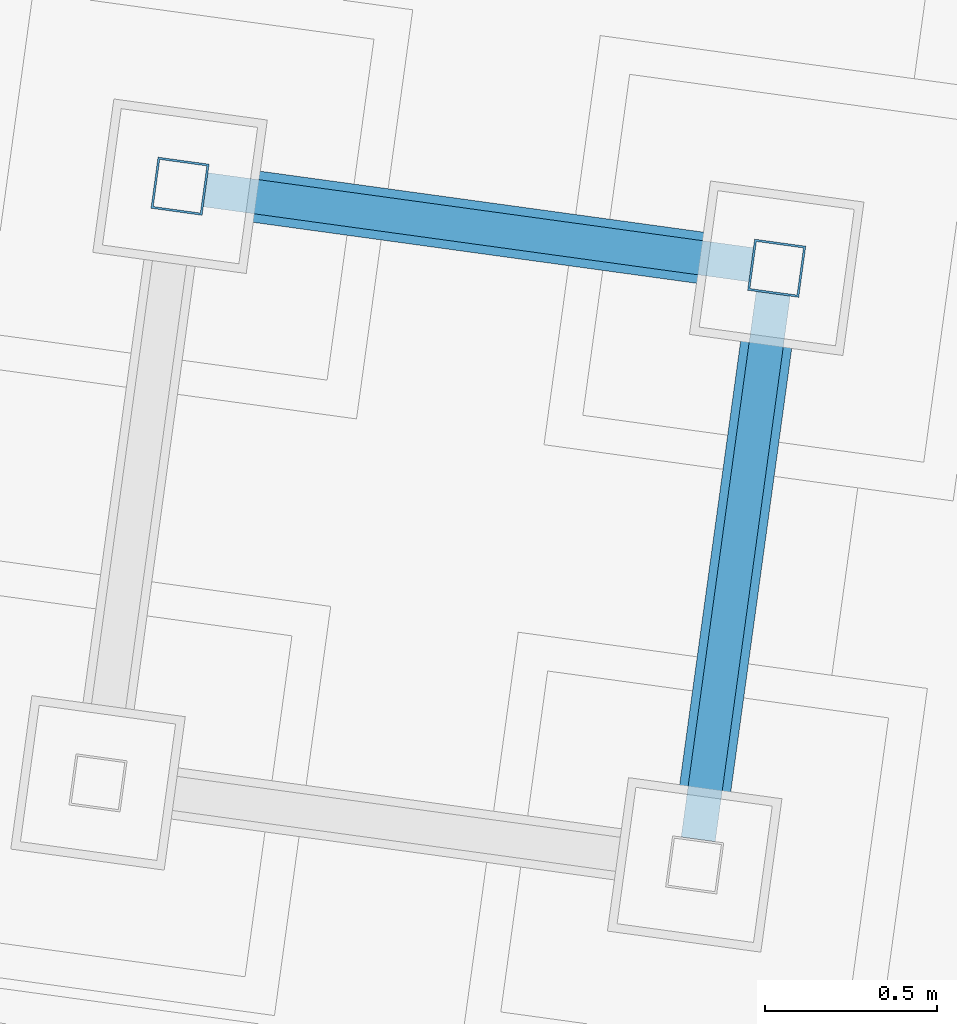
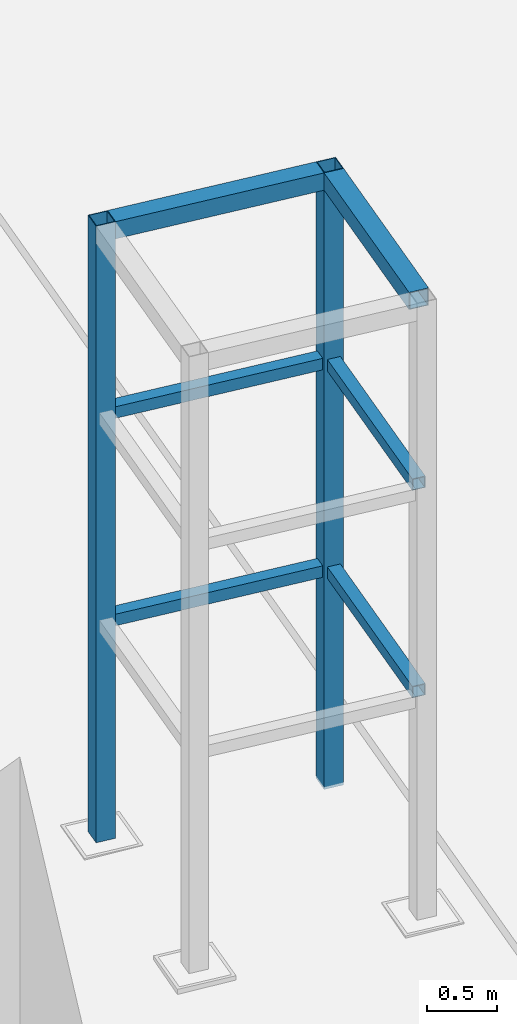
# Not in any storey, part 10 of 75: 8 members.
"""IFC4 model written with IfcOpenShell, lengths in metres."""

from ifc_helpers import new_model, si_unit, direction, origin, origin_with_axes, place, context, subcontext, project, spatial, triangles, element, save


model = new_model("IFC4")

# Units and contexts
model_context = context("Model", 3, precision=1e-05, world=origin_with_axes(), true_north=direction((0.0, 1.0)))
body_context = subcontext(model_context, "Body", "Model", "MODEL_VIEW")
ifc_project = project(units=[si_unit("AREAUNIT", "SQUARE_METRE"), si_unit("VOLUMEUNIT", "CUBIC_METRE"), si_unit("LENGTHUNIT", "METRE")], contexts=[model_context])

# Site
site_placement = place(None, origin_with_axes())
site = spatial("IfcSite", under=ifc_project, at=site_placement, Name="Parcela industrial Jinhong")

# Members
member_1_placement = place(None, origin())
element("IfcMember", 1, at=member_1_placement, inside=site, Name="SL1201 · columna 3 · tubo 150×150×6 mm", context=body_context, shape_type="Tessellation", body=[
    triangles([(62.395218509, 52.159312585, 1.3), (62.395218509, 52.159312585, 6.65), (62.543820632, 52.138881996, 1.3), (62.543820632, 52.138881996, 6.65), (62.394401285, 52.1533685, 1.3), (62.394401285, 52.1533685, 6.65), (62.543003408, 52.132937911, 1.3), (62.543003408, 52.132937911, 6.65)], [[2, 4, 1], [5, 2, 1], [1, 4, 3], [3, 5, 1], [2, 8, 4], [6, 2, 5], [6, 8, 2], [4, 8, 3], [7, 5, 3], [3, 8, 7], [7, 6, 5], [8, 6, 7]], closed=True),
    triangles([(62.414831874, 52.301970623, 1.3), (62.414831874, 52.301970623, 6.65), (62.563433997, 52.281540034, 1.3), (62.563433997, 52.281540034, 6.65), (62.41401465, 52.296026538, 1.3), (62.41401465, 52.296026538, 6.65), (62.562616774, 52.275595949, 1.3), (62.562616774, 52.275595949, 6.65)], [[2, 4, 1], [5, 2, 1], [1, 4, 3], [3, 5, 1], [2, 8, 4], [6, 2, 5], [6, 8, 2], [4, 8, 3], [7, 5, 3], [3, 8, 7], [7, 6, 5], [8, 6, 7]], closed=True),
    triangles([(62.556672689, 52.276413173, 1.3), (62.556672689, 52.276413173, 6.65), (62.562616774, 52.275595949, 1.3), (62.562616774, 52.275595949, 6.65), (62.537876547, 52.13969922, 1.3), (62.537876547, 52.13969922, 6.65), (62.543820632, 52.138881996, 1.3), (62.543820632, 52.138881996, 6.65)], [[2, 4, 1], [5, 2, 1], [1, 4, 3], [3, 5, 1], [2, 8, 4], [6, 2, 5], [6, 8, 2], [4, 8, 3], [7, 5, 3], [3, 8, 7], [7, 6, 5], [8, 6, 7]], closed=True),
    triangles([(62.41401465, 52.296026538, 1.3), (62.41401465, 52.296026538, 6.65), (62.419958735, 52.295209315, 1.3), (62.419958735, 52.295209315, 6.65), (62.395218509, 52.159312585, 1.3), (62.395218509, 52.159312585, 6.65), (62.401162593, 52.158495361, 1.3), (62.401162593, 52.158495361, 6.65)], [[2, 4, 1], [5, 2, 1], [1, 4, 3], [3, 5, 1], [2, 8, 4], [6, 2, 5], [6, 8, 2], [4, 8, 3], [7, 5, 3], [3, 8, 7], [7, 6, 5], [8, 6, 7]], closed=True),
])
member_2_placement = place(None, origin())
element("IfcMember", 2, at=member_2_placement, inside=site, Name="SL1201 · columna 4 · tubo 150×150×6 mm", context=body_context, shape_type="Tessellation", body=[
    triangles([(60.66152707, 52.397669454, 1.3), (60.66152707, 52.397669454, 6.65), (60.810129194, 52.377238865, 1.3), (60.810129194, 52.377238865, 6.65), (60.660709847, 52.391725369, 1.3), (60.660709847, 52.391725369, 6.65), (60.80931197, 52.37129478, 1.3), (60.80931197, 52.37129478, 6.65)], [[2, 4, 1], [5, 2, 1], [1, 4, 3], [3, 5, 1], [2, 8, 4], [6, 2, 5], [6, 8, 2], [4, 8, 3], [7, 5, 3], [3, 8, 7], [7, 6, 5], [8, 6, 7]], closed=True),
    triangles([(60.681140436, 52.540327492, 1.3), (60.681140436, 52.540327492, 6.65), (60.829742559, 52.519896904, 1.3), (60.829742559, 52.519896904, 6.65), (60.680323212, 52.534383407, 1.3), (60.680323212, 52.534383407, 6.65), (60.828925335, 52.513952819, 1.3), (60.828925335, 52.513952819, 6.65)], [[2, 4, 1], [5, 2, 1], [1, 4, 3], [3, 5, 1], [2, 8, 4], [6, 2, 5], [6, 8, 2], [4, 8, 3], [7, 5, 3], [3, 8, 7], [7, 6, 5], [8, 6, 7]], closed=True),
    triangles([(60.82298125, 52.514770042, 1.3), (60.82298125, 52.514770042, 6.65), (60.828925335, 52.513952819, 1.3), (60.828925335, 52.513952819, 6.65), (60.804185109, 52.378056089, 1.3), (60.804185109, 52.378056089, 6.65), (60.810129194, 52.377238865, 1.3), (60.810129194, 52.377238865, 6.65)], [[2, 4, 1], [5, 2, 1], [1, 4, 3], [3, 5, 1], [2, 8, 4], [6, 2, 5], [6, 8, 2], [4, 8, 3], [7, 5, 3], [3, 8, 7], [7, 6, 5], [8, 6, 7]], closed=True),
    triangles([(60.680323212, 52.534383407, 1.3), (60.680323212, 52.534383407, 6.65), (60.686267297, 52.533566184, 1.3), (60.686267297, 52.533566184, 6.65), (60.66152707, 52.397669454, 1.3), (60.66152707, 52.397669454, 6.65), (60.667471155, 52.39685223, 1.3), (60.667471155, 52.39685223, 6.65)], [[2, 4, 1], [5, 2, 1], [1, 4, 3], [3, 5, 1], [2, 8, 4], [6, 2, 5], [6, 8, 2], [4, 8, 3], [7, 5, 3], [3, 8, 7], [7, 6, 5], [8, 6, 7]], closed=True),
])
member_3_placement = place(None, origin())
element("IfcMember", 3, at=member_3_placement, inside=site, Name="SL1201 · travesaño INF 2", context=body_context, shape_type="Tessellation", body=[
    triangles([(62.206195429, 50.564193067, 3.125), (62.42412171, 52.149282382, 3.125), (62.206195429, 50.564193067, 3.225), (62.42412171, 52.149282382, 3.225), (62.201242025, 50.564874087, 3.125), (62.419168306, 52.149963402, 3.125), (62.201242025, 50.564874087, 3.225), (62.419168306, 52.149963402, 3.225)], [[2, 4, 1], [5, 2, 1], [1, 4, 3], [3, 5, 1], [2, 8, 4], [6, 2, 5], [6, 8, 2], [4, 8, 3], [7, 5, 3], [3, 8, 7], [7, 6, 5], [8, 6, 7]], closed=True),
    triangles([(62.300310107, 50.551253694, 3.125), (62.518236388, 52.136343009, 3.125), (62.300310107, 50.551253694, 3.225), (62.518236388, 52.136343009, 3.225), (62.295356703, 50.551934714, 3.125), (62.513282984, 52.137024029, 3.125), (62.295356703, 50.551934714, 3.225), (62.513282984, 52.137024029, 3.225)], [[2, 4, 1], [5, 2, 1], [1, 4, 3], [3, 5, 1], [2, 8, 4], [6, 2, 5], [6, 8, 2], [4, 8, 3], [7, 5, 3], [3, 8, 7], [7, 6, 5], [8, 6, 7]], closed=True),
    triangles([(62.295356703, 50.551934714, 3.22), (62.513282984, 52.137024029, 3.22), (62.295356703, 50.551934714, 3.225), (62.513282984, 52.137024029, 3.225), (62.206195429, 50.564193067, 3.22), (62.42412171, 52.149282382, 3.22), (62.206195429, 50.564193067, 3.225), (62.42412171, 52.149282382, 3.225)], [[2, 4, 1], [5, 2, 1], [1, 4, 3], [3, 5, 1], [2, 8, 4], [6, 2, 5], [6, 8, 2], [4, 8, 3], [7, 5, 3], [3, 8, 7], [7, 6, 5], [8, 6, 7]], closed=True),
    triangles([(62.295356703, 50.551934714, 3.125), (62.513282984, 52.137024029, 3.125), (62.295356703, 50.551934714, 3.13), (62.513282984, 52.137024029, 3.13), (62.206195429, 50.564193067, 3.125), (62.42412171, 52.149282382, 3.125), (62.206195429, 50.564193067, 3.13), (62.42412171, 52.149282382, 3.13)], [[2, 4, 1], [5, 2, 1], [1, 4, 3], [3, 5, 1], [2, 8, 4], [6, 2, 5], [6, 8, 2], [4, 8, 3], [7, 5, 3], [3, 8, 7], [7, 6, 5], [8, 6, 7]], closed=True),
])
member_4_placement = place(None, origin())
element("IfcMember", 4, at=member_4_placement, inside=site, Name="SL1201 · travesaño INF 3", context=body_context, shape_type="Tessellation", body=[
    triangles([(62.398487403, 52.183088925, 3.125), (60.813398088, 52.401015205, 3.125), (62.398487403, 52.183088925, 3.225), (60.813398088, 52.401015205, 3.225), (62.397806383, 52.17813552, 3.125), (60.812717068, 52.396061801, 3.125), (62.397806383, 52.17813552, 3.225), (60.812717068, 52.396061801, 3.225)], [[2, 4, 1], [5, 2, 1], [1, 4, 3], [3, 5, 1], [2, 8, 4], [6, 2, 5], [6, 8, 2], [4, 8, 3], [7, 5, 3], [3, 8, 7], [7, 6, 5], [8, 6, 7]], closed=True),
    triangles([(62.411426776, 52.277203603, 3.125), (60.826337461, 52.495129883, 3.125), (62.411426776, 52.277203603, 3.225), (60.826337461, 52.495129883, 3.225), (62.410745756, 52.272250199, 3.125), (60.825656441, 52.490176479, 3.125), (62.410745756, 52.272250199, 3.225), (60.825656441, 52.490176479, 3.225)], [[2, 4, 1], [5, 2, 1], [1, 4, 3], [3, 5, 1], [2, 8, 4], [6, 2, 5], [6, 8, 2], [4, 8, 3], [7, 5, 3], [3, 8, 7], [7, 6, 5], [8, 6, 7]], closed=True),
    triangles([(62.410745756, 52.272250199, 3.22), (60.825656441, 52.490176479, 3.22), (62.410745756, 52.272250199, 3.225), (60.825656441, 52.490176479, 3.225), (62.398487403, 52.183088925, 3.22), (60.813398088, 52.401015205, 3.22), (62.398487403, 52.183088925, 3.225), (60.813398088, 52.401015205, 3.225)], [[2, 4, 1], [5, 2, 1], [1, 4, 3], [3, 5, 1], [2, 8, 4], [6, 2, 5], [6, 8, 2], [4, 8, 3], [7, 5, 3], [3, 8, 7], [7, 6, 5], [8, 6, 7]], closed=True),
    triangles([(62.410745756, 52.272250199, 3.125), (60.825656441, 52.490176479, 3.125), (62.410745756, 52.272250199, 3.13), (60.825656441, 52.490176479, 3.13), (62.398487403, 52.183088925, 3.125), (60.813398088, 52.401015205, 3.125), (62.398487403, 52.183088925, 3.13), (60.813398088, 52.401015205, 3.13)], [[2, 4, 1], [5, 2, 1], [1, 4, 3], [3, 5, 1], [2, 8, 4], [6, 2, 5], [6, 8, 2], [4, 8, 3], [7, 5, 3], [3, 8, 7], [7, 6, 5], [8, 6, 7]], closed=True),
])
member_5_placement = place(None, origin())
element("IfcMember", 5, at=member_5_placement, inside=site, Name="SL1201 · travesaño MED 2", context=body_context, shape_type="Tessellation", body=[
    triangles([(62.206195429, 50.564193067, 4.925), (62.42412171, 52.149282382, 4.925), (62.206195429, 50.564193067, 5.025), (62.42412171, 52.149282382, 5.025), (62.201242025, 50.564874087, 4.925), (62.419168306, 52.149963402, 4.925), (62.201242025, 50.564874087, 5.025), (62.419168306, 52.149963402, 5.025)], [[2, 4, 1], [5, 2, 1], [1, 4, 3], [3, 5, 1], [2, 8, 4], [6, 2, 5], [6, 8, 2], [4, 8, 3], [7, 5, 3], [3, 8, 7], [7, 6, 5], [8, 6, 7]], closed=True),
    triangles([(62.300310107, 50.551253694, 4.925), (62.518236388, 52.136343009, 4.925), (62.300310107, 50.551253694, 5.025), (62.518236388, 52.136343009, 5.025), (62.295356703, 50.551934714, 4.925), (62.513282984, 52.137024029, 4.925), (62.295356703, 50.551934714, 5.025), (62.513282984, 52.137024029, 5.025)], [[2, 4, 1], [5, 2, 1], [1, 4, 3], [3, 5, 1], [2, 8, 4], [6, 2, 5], [6, 8, 2], [4, 8, 3], [7, 5, 3], [3, 8, 7], [7, 6, 5], [8, 6, 7]], closed=True),
    triangles([(62.295356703, 50.551934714, 5.02), (62.513282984, 52.137024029, 5.02), (62.295356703, 50.551934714, 5.025), (62.513282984, 52.137024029, 5.025), (62.206195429, 50.564193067, 5.02), (62.42412171, 52.149282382, 5.02), (62.206195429, 50.564193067, 5.025), (62.42412171, 52.149282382, 5.025)], [[2, 4, 1], [5, 2, 1], [1, 4, 3], [3, 5, 1], [2, 8, 4], [6, 2, 5], [6, 8, 2], [4, 8, 3], [7, 5, 3], [3, 8, 7], [7, 6, 5], [8, 6, 7]], closed=True),
    triangles([(62.295356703, 50.551934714, 4.925), (62.513282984, 52.137024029, 4.925), (62.295356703, 50.551934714, 4.93), (62.513282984, 52.137024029, 4.93), (62.206195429, 50.564193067, 4.925), (62.42412171, 52.149282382, 4.925), (62.206195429, 50.564193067, 4.93), (62.42412171, 52.149282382, 4.93)], [[2, 4, 1], [5, 2, 1], [1, 4, 3], [3, 5, 1], [2, 8, 4], [6, 2, 5], [6, 8, 2], [4, 8, 3], [7, 5, 3], [3, 8, 7], [7, 6, 5], [8, 6, 7]], closed=True),
])
member_6_placement = place(None, origin())
element("IfcMember", 6, at=member_6_placement, inside=site, Name="SL1201 · travesaño MED 3", context=body_context, shape_type="Tessellation", body=[
    triangles([(62.398487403, 52.183088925, 4.925), (60.813398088, 52.401015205, 4.925), (62.398487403, 52.183088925, 5.025), (60.813398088, 52.401015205, 5.025), (62.397806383, 52.17813552, 4.925), (60.812717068, 52.396061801, 4.925), (62.397806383, 52.17813552, 5.025), (60.812717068, 52.396061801, 5.025)], [[2, 4, 1], [5, 2, 1], [1, 4, 3], [3, 5, 1], [2, 8, 4], [6, 2, 5], [6, 8, 2], [4, 8, 3], [7, 5, 3], [3, 8, 7], [7, 6, 5], [8, 6, 7]], closed=True),
    triangles([(62.411426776, 52.277203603, 4.925), (60.826337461, 52.495129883, 4.925), (62.411426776, 52.277203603, 5.025), (60.826337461, 52.495129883, 5.025), (62.410745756, 52.272250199, 4.925), (60.825656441, 52.490176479, 4.925), (62.410745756, 52.272250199, 5.025), (60.825656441, 52.490176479, 5.025)], [[2, 4, 1], [5, 2, 1], [1, 4, 3], [3, 5, 1], [2, 8, 4], [6, 2, 5], [6, 8, 2], [4, 8, 3], [7, 5, 3], [3, 8, 7], [7, 6, 5], [8, 6, 7]], closed=True),
    triangles([(62.410745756, 52.272250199, 5.02), (60.825656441, 52.490176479, 5.02), (62.410745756, 52.272250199, 5.025), (60.825656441, 52.490176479, 5.025), (62.398487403, 52.183088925, 5.02), (60.813398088, 52.401015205, 5.02), (62.398487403, 52.183088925, 5.025), (60.813398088, 52.401015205, 5.025)], [[2, 4, 1], [5, 2, 1], [1, 4, 3], [3, 5, 1], [2, 8, 4], [6, 2, 5], [6, 8, 2], [4, 8, 3], [7, 5, 3], [3, 8, 7], [7, 6, 5], [8, 6, 7]], closed=True),
    triangles([(62.410745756, 52.272250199, 4.925), (60.825656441, 52.490176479, 4.925), (62.410745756, 52.272250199, 4.93), (60.825656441, 52.490176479, 4.93), (62.398487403, 52.183088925, 4.925), (60.813398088, 52.401015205, 4.925), (62.398487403, 52.183088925, 4.93), (60.813398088, 52.401015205, 4.93)], [[2, 4, 1], [5, 2, 1], [1, 4, 3], [3, 5, 1], [2, 8, 4], [6, 2, 5], [6, 8, 2], [4, 8, 3], [7, 5, 3], [3, 8, 7], [7, 6, 5], [8, 6, 7]], closed=True),
])
member_7_placement = place(None, origin())
element("IfcMember", 7, at=member_7_placement, inside=site, Name="SL1201 · travesaño SUP 2", context=body_context, shape_type="Tessellation", body=[
    triangles([(62.18241909, 50.567461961, 6.5), (62.40034537, 52.152551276, 6.5), (62.18241909, 50.567461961, 6.65), (62.40034537, 52.152551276, 6.65), (62.176475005, 50.568279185, 6.5), (62.394401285, 52.1533685, 6.5), (62.176475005, 50.568279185, 6.65), (62.394401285, 52.1533685, 6.65)], [[2, 4, 1], [5, 2, 1], [1, 4, 3], [3, 5, 1], [2, 8, 4], [6, 2, 5], [6, 8, 2], [4, 8, 3], [7, 5, 3], [3, 8, 7], [7, 6, 5], [8, 6, 7]], closed=True),
    triangles([(62.325077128, 50.547848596, 6.5), (62.543003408, 52.132937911, 6.5), (62.325077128, 50.547848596, 6.65), (62.543003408, 52.132937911, 6.65), (62.319133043, 50.54866582, 6.5), (62.537059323, 52.133755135, 6.5), (62.319133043, 50.54866582, 6.65), (62.537059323, 52.133755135, 6.65)], [[2, 4, 1], [5, 2, 1], [1, 4, 3], [3, 5, 1], [2, 8, 4], [6, 2, 5], [6, 8, 2], [4, 8, 3], [7, 5, 3], [3, 8, 7], [7, 6, 5], [8, 6, 7]], closed=True),
    triangles([(62.319133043, 50.54866582, 6.644), (62.537059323, 52.133755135, 6.644), (62.319133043, 50.54866582, 6.65), (62.537059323, 52.133755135, 6.65), (62.18241909, 50.567461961, 6.644), (62.40034537, 52.152551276, 6.644), (62.18241909, 50.567461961, 6.65), (62.40034537, 52.152551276, 6.65)], [[2, 4, 1], [5, 2, 1], [1, 4, 3], [3, 5, 1], [2, 8, 4], [6, 2, 5], [6, 8, 2], [4, 8, 3], [7, 5, 3], [3, 8, 7], [7, 6, 5], [8, 6, 7]], closed=True),
    triangles([(62.319133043, 50.54866582, 6.5), (62.537059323, 52.133755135, 6.5), (62.319133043, 50.54866582, 6.506), (62.537059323, 52.133755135, 6.506), (62.18241909, 50.567461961, 6.5), (62.40034537, 52.152551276, 6.5), (62.18241909, 50.567461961, 6.506), (62.40034537, 52.152551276, 6.506)], [[2, 4, 1], [5, 2, 1], [1, 4, 3], [3, 5, 1], [2, 8, 4], [6, 2, 5], [6, 8, 2], [4, 8, 3], [7, 5, 3], [3, 8, 7], [7, 6, 5], [8, 6, 7]], closed=True),
])
member_8_placement = place(None, origin())
element("IfcMember", 8, at=member_8_placement, inside=site, Name="SL1201 · travesaño SUP 3", context=body_context, shape_type="Tessellation", body=[
    triangles([(62.395218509, 52.159312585, 6.5), (60.810129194, 52.377238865, 6.5), (62.395218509, 52.159312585, 6.65), (60.810129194, 52.377238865, 6.65), (62.394401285, 52.1533685, 6.5), (60.80931197, 52.37129478, 6.5), (62.394401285, 52.1533685, 6.65), (60.80931197, 52.37129478, 6.65)], [[2, 4, 1], [5, 2, 1], [1, 4, 3], [3, 5, 1], [2, 8, 4], [6, 2, 5], [6, 8, 2], [4, 8, 3], [7, 5, 3], [3, 8, 7], [7, 6, 5], [8, 6, 7]], closed=True),
    triangles([(62.414831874, 52.301970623, 6.5), (60.829742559, 52.519896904, 6.5), (62.414831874, 52.301970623, 6.65), (60.829742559, 52.519896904, 6.65), (62.41401465, 52.296026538, 6.5), (60.828925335, 52.513952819, 6.5), (62.41401465, 52.296026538, 6.65), (60.828925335, 52.513952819, 6.65)], [[2, 4, 1], [5, 2, 1], [1, 4, 3], [3, 5, 1], [2, 8, 4], [6, 2, 5], [6, 8, 2], [4, 8, 3], [7, 5, 3], [3, 8, 7], [7, 6, 5], [8, 6, 7]], closed=True),
    triangles([(62.41401465, 52.296026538, 6.644), (60.828925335, 52.513952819, 6.644), (62.41401465, 52.296026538, 6.65), (60.828925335, 52.513952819, 6.65), (62.395218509, 52.159312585, 6.644), (60.810129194, 52.377238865, 6.644), (62.395218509, 52.159312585, 6.65), (60.810129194, 52.377238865, 6.65)], [[2, 4, 1], [5, 2, 1], [1, 4, 3], [3, 5, 1], [2, 8, 4], [6, 2, 5], [6, 8, 2], [4, 8, 3], [7, 5, 3], [3, 8, 7], [7, 6, 5], [8, 6, 7]], closed=True),
    triangles([(62.41401465, 52.296026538, 6.5), (60.828925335, 52.513952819, 6.5), (62.41401465, 52.296026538, 6.506), (60.828925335, 52.513952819, 6.506), (62.395218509, 52.159312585, 6.5), (60.810129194, 52.377238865, 6.5), (62.395218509, 52.159312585, 6.506), (60.810129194, 52.377238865, 6.506)], [[2, 4, 1], [5, 2, 1], [1, 4, 3], [3, 5, 1], [2, 8, 4], [6, 2, 5], [6, 8, 2], [4, 8, 3], [7, 5, 3], [3, 8, 7], [7, 6, 5], [8, 6, 7]], closed=True),
])

save(model, "model.ifc")
